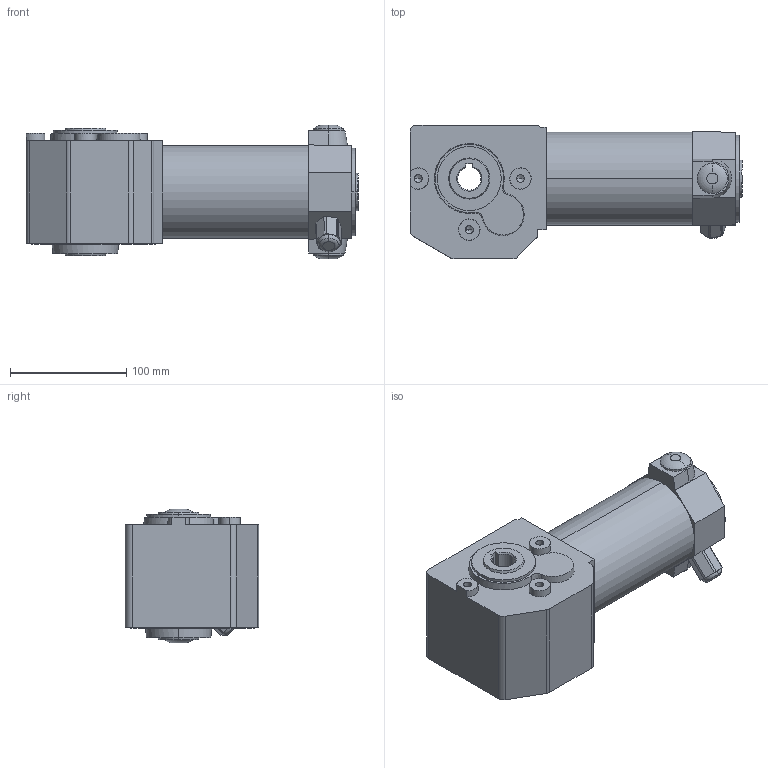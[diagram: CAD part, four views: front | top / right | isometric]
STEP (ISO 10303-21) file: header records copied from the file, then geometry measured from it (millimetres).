
FILE_DESCRIPTION(('OneSpaceDesigner STEP Export'),'2;1');
FILE_NAME('EPG13_ZB45.stp','2008-07-17T15:42:31',(''),(''),'OneSpace Designer STEP processor (Jan. 2003) for AP214(CD)(Solid Model)','OneSpace Designer 12.01D 09-Jul-2004 (C) CoCreate Software GmbH','');
FILE_SCHEMA(('AUTOMOTIVE_DESIGN_CC2 {1 2 10303 214 -1 1 5 1}'));
Length unit declared in the file: millimetre
Products named in the file (2): EPG13_ZB45
Assembly tree (1 placements, depth 2):
  EPG13_ZB45
    EPG13_ZB45
Bounding box: 285.5 x 115 x 115 mm (x, y, z)
Volume: 2027296.5 mm3; surface area: 123968.2 mm2
Topology: 1 solids, 1 shells, 138 faces, 341 edges, 221 vertices
Faces by surface type: plane 55, cylinder 42, bspline 17, cone 16, torus 8
Entity records: 12959 total; most frequent: CARTESIAN_POINT 9980, ORIENTED_EDGE 670, DIRECTION 472, EDGE_CURVE 335, VERTEX_POINT 221, EDGE_LOOP 162, AXIS2_PLACEMENT_3D 160, VECTOR 152
